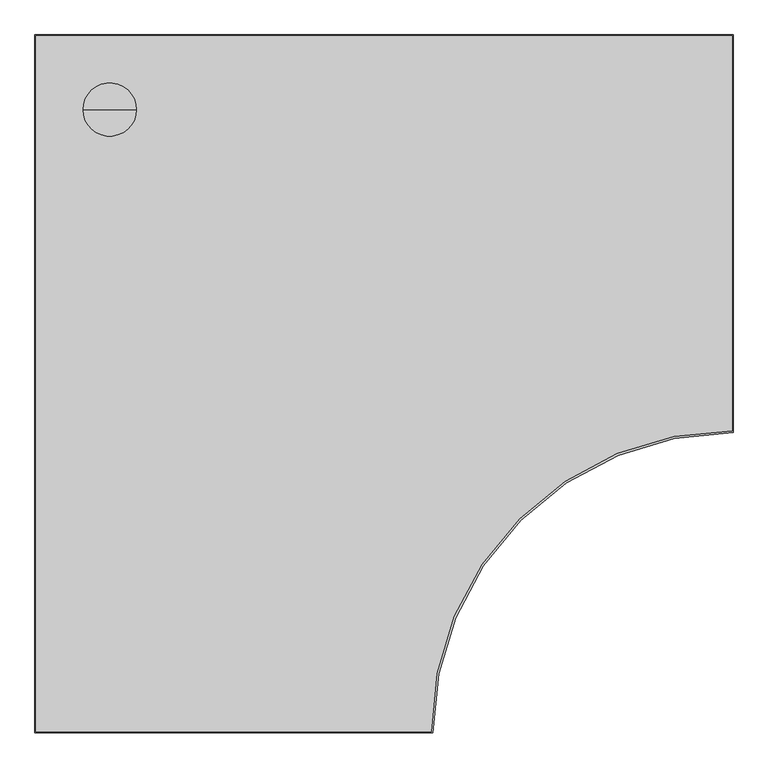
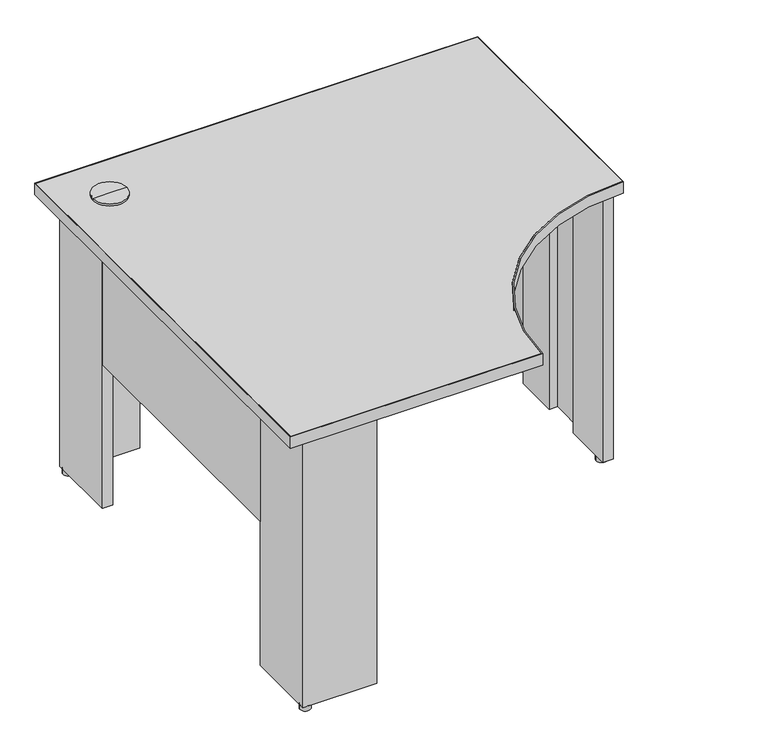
"""IFC4 building model written with IfcOpenShell, lengths in millimetres: furniture geometry, Steelcase - Kick Freestanding - Desk - Curve Corner - Partial Height Modesty Panel : 24D x 42W - Right Full End Panel/Left Clear Access Support - LPL."""

from ifc_helpers import new_model, si_unit, point, frame, frame_2d, origin, origin_with_axes, place, context, project, spatial, polyline, circle_curve, trimmed, segment, composite_curve, outline, extrude, source, transform, mapped, element, save
from ifc_brep_helpers import plane_surface, cylinder_surface, advanced_brep


def furniture_2d711125(model_context):
    return source(origin(), model_context, "Body", "SolidModel", [
        extrude(outline(composite_curve([segment(trimmed(circle_curve(frame_2d((1038.8853521, -565.8064761)), 12.7), [point((1026.1853521, -565.8064761))], [point((1051.5853521, -565.8064761))], False, "CARTESIAN"), True, "CONTINUOUS"), segment(trimmed(circle_curve(frame_2d((1038.8853521, -565.8064761)), 12.7), [point((1051.5853521, -565.8064761))], [point((1026.1853521, -565.8064761))], False, "CARTESIAN"), True, "CONTINUOUS")], self_intersect=False)), origin_with_axes(), (0.0, 0.0, 1.0), 12.446),
        extrude(outline(polyline([(215.8999939, -63.5), (63.5, -63.5), (63.5, -215.8999939), (38.1, -215.8999939), (38.1, -38.1), (215.8999939, -38.1), (215.8999939, -63.5)])), frame((0.0, 0.0, 12.446), z_axis=(0.0, 0.0, 1.0), x_axis=(1.0, 0.0, 0.0)), (0.0, 0.0, 1.0), 682.498),
        extrude(outline(polyline([(874.0393822, -63.5), (874.0393822, -38.1), (1051.8393579, -38.1), (1051.8393579, -592.582), (1025.9313463, -592.582), (1025.9313463, -469.5444), (1046.098945, -469.5444), (1046.098945, -369.824), (1025.9313463, -369.824), (1025.9313463, -261.0866), (1046.098945, -261.0866), (1046.098945, -161.3662), (1025.9313463, -161.3662), (1025.9313463, -63.5), (874.0393822, -63.5)])), frame((0.0, 0.0, 12.446), z_axis=(0.0, 0.0, 1.0), x_axis=(1.0, 0.0, 0.0)), (0.0, 0.0, 1.0), 682.498),
        advanced_brep(
        [(114.3, -114.3, 728.98), (154.94, -114.3, 728.98), (73.66, -114.3, 728.98), (76.1699693, -114.3, 694.944), (152.4300307, -114.3, 694.944), (114.3, -114.3, 694.944), (76.1699693, -114.3, 723.9), (152.4300307, -114.3, 723.9), (73.66, -114.3, 723.9), (154.94, -114.3, 723.9)],
        [
            (0, 1),
            (1, 2, circle_curve(frame((114.3, -114.3, 728.98), z_axis=(0.0, 0.0, 1.0), x_axis=(1.0, 0.0, 0.0)), 40.64)),
            (2, 0),
            (2, 1, circle_curve(frame((114.3, -114.3, 728.98), z_axis=(0.0, 0.0, 1.0), x_axis=(1.0, 0.0, 0.0)), 40.64)),
            (3, 4, circle_curve(frame((114.3, -114.3, 694.944), z_axis=(0.0, 0.0, -1.0), x_axis=(1.0, 0.0, 0.0)), 38.1300307)),
            (4, 5),
            (5, 3),
            (4, 3, circle_curve(frame((114.3, -114.3, 694.944), z_axis=(0.0, 0.0, -1.0), x_axis=(1.0, 0.0, 0.0)), 38.1300307)),
            (6, 7, circle_curve(frame((114.3, -114.3, 723.9), z_axis=(0.0, 0.0, -1.0), x_axis=(1.0, 0.0, 0.0)), 38.1300307)),
            (7, 4),
            (3, 6),
            (7, 6, circle_curve(frame((114.3, -114.3, 723.9), z_axis=(0.0, 0.0, -1.0), x_axis=(1.0, 0.0, 0.0)), 38.1300307)),
            (8, 9, circle_curve(frame((114.3, -114.3, 723.9), z_axis=(0.0, 0.0, -1.0), x_axis=(1.0, 0.0, 0.0)), 40.64)),
            (9, 7),
            (6, 8),
            (9, 8, circle_curve(frame((114.3, -114.3, 723.9), z_axis=(0.0, 0.0, -1.0), x_axis=(1.0, 0.0, 0.0)), 40.64)),
            (1, 9),
            (8, 2),
        ],
        [
            plane_surface(frame((114.3, -114.3, 728.98), z_axis=(0.0, 0.0, 1.0), x_axis=(1.0, 0.0, 0.0))),
            plane_surface(frame((114.3, -114.3, 694.944), z_axis=(0.0, 0.0, -1.0), x_axis=(1.0, 0.0, 0.0))),
            cylinder_surface(frame((114.3, -114.3, 728.98), z_axis=(0.0, 0.0, 1.0), x_axis=(1.0, 0.0, 0.0)), 38.1300307),
            plane_surface(frame((114.3, -114.3, 723.9), z_axis=(0.0, 0.0, -1.0), x_axis=(1.0, 0.0, 0.0))),
            cylinder_surface(frame((114.3, -114.3, 728.98), z_axis=(0.0, 0.0, 1.0), x_axis=(1.0, 0.0, 0.0)), 40.64),
        ],
        [
            (0, [[1, 2, 3]]),
            (0, [[-3, 4, -1]]),
            (1, [[5, 6, 7]]),
            (1, [[8, -7, -6]]),
            (2, [[9, 10, -5, 11]]),
            (2, [[12, -11, -8, -10]]),
            (3, [[13, 14, -9, 15]]),
            (3, [[16, -15, -12, -14]]),
            (4, [[-2, 17, -13, 18]]),
            (4, [[-4, -18, -16, -17]]),
        ],
    ),
        extrude(outline(composite_curve([segment(trimmed(circle_curve(frame_2d((50.8, -50.8)), 12.7), [point((38.1, -50.8))], [point((63.5, -50.8))], False, "CARTESIAN"), True, "CONTINUOUS"), segment(trimmed(circle_curve(frame_2d((50.8, -50.8)), 12.7), [point((63.5, -50.8))], [point((38.1, -50.8))], False, "CARTESIAN"), True, "CONTINUOUS")], self_intersect=False)), origin_with_axes(), (0.0, 0.0, 1.0), 12.446),
        extrude(outline(composite_curve([segment(trimmed(circle_curve(frame_2d((50.8, -1040.1300073)), 12.7484998), [point((38.0515002, -1040.1300073))], [point((63.5484998, -1040.1300073))], False, "CARTESIAN"), True, "CONTINUOUS"), segment(trimmed(circle_curve(frame_2d((50.8, -1040.1300073)), 12.7484998), [point((63.5484998, -1040.1300073))], [point((38.0515002, -1040.1300073))], False, "CARTESIAN"), True, "CONTINUOUS")], self_intersect=False)), origin_with_axes(), (0.0, 0.0, 1.0), 12.446),
        extrude(outline(composite_curve([segment(trimmed(circle_curve(frame_2d((1038.8853521, -50.8)), 12.7), [point((1026.1853521, -50.8))], [point((1051.5853521, -50.8))], False, "CARTESIAN"), True, "CONTINUOUS"), segment(trimmed(circle_curve(frame_2d((1038.8853521, -50.8)), 12.7), [point((1051.5853521, -50.8))], [point((1026.1853521, -50.8))], False, "CARTESIAN"), True, "CONTINUOUS")], self_intersect=False)), origin_with_axes(), (0.0, 0.0, 1.0), 12.446),
        extrude(outline(polyline([(63.5, -215.8999939), (63.5, -875.0300194), (38.1, -875.0300194), (38.1, -215.8999939), (63.5, -215.8999939)])), frame((0.0, 0.0, 379.476), z_axis=(0.0, 0.0, 1.0), x_axis=(1.0, 0.0, 0.0)), (0.0, 0.0, 1.0), 315.468),
        extrude(outline(polyline([(874.0393822, -38.1), (874.0393822, -63.5), (215.8999939, -63.5), (215.8999939, -38.1), (874.0393822, -38.1)])), frame((0.0, 0.0, 379.476), z_axis=(0.0, 0.0, 1.0), x_axis=(1.0, 0.0, 0.0)), (0.0, 0.0, 1.0), 315.468),
        extrude(outline(polyline([(215.8999939, -1027.4300194), (215.8999939, -1052.8299952), (38.1, -1052.8299952), (38.1, -875.0300194), (63.5, -875.0300194), (63.5, -1027.4300194), (215.8999939, -1027.4300194)])), frame((0.0, 0.0, 12.446), z_axis=(0.0, 0.0, 1.0), x_axis=(1.0, 0.0, 0.0)), (0.0, 0.0, 1.0), 682.498),
        extrude(outline(composite_curve([segment(polyline([(0.9906, -1065.8093628), (0.9906, -0.9906), (1065.8093628, -0.9906), (1065.8093628, -605.3354109)]), True, "CONTINUOUS"), segment(trimmed(circle_curve(frame_2d((1064.5393458, -1064.5393458)), 459.2056912), [point((1065.8093628, -605.3354109))], [point((605.3354109, -1065.8093628))], True, "CARTESIAN"), True, "CONTINUOUS"), segment(polyline([(605.3354109, -1065.8093628), (0.9906, -1065.8093628)]), True, "CONTINUOUS")], self_intersect=False)), frame((0.0, 0.0, 694.944), z_axis=(0.0, 0.0, 1.0), x_axis=(1.0, 0.0, 0.0)), (0.0, 0.0, 1.0), 28.956),
        extrude(outline(composite_curve([segment(polyline([(1066.8, 0.0), (1066.8, -608.332629)]), True, "CONTINUOUS"), segment(trimmed(circle_curve(frame_2d((1065.529983, -1065.529983)), 457.199118), [point((1066.8, -608.332629))], [point((608.332629, -1066.8))], True, "CARTESIAN"), True, "CONTINUOUS"), segment(polyline([(608.332629, -1066.8), (0.0, -1066.8), (0.0, 0.0), (1066.8, 0.0)]), True, "CONTINUOUS")], self_intersect=False), holes=[composite_curve([segment(polyline([(1065.8093628, -0.9906), (0.9906, -0.9906), (0.9906, -1065.8093628), (605.3354109, -1065.8093628)]), True, "CONTINUOUS"), segment(trimmed(circle_curve(frame_2d((1064.5393458, -1064.5393458)), 459.2056912), [point((605.3354109, -1065.8093628))], [point((1065.8093628, -605.3354109))], False, "CARTESIAN"), True, "CONTINUOUS"), segment(polyline([(1065.8093628, -605.3354109), (1065.8093628, -0.9906)]), True, "CONTINUOUS")], self_intersect=False)]), frame((0.0, 0.0, 694.944), z_axis=(0.0, 0.0, 1.0), x_axis=(1.0, 0.0, 0.0)), (0.0, 0.0, 1.0), 28.956),
    ])


if __name__ == "__main__":
    model = new_model("IFC4")
    model_context = context("Model", 3, world=origin())
    ifc_project = project(units=[si_unit("LENGTHUNIT", "METRE", prefix="MILLI")], contexts=[model_context])
    site = spatial("IfcSite", under=ifc_project)
    building = spatial("IfcBuilding", under=site)
    placement = place(None, origin())
    furniture_shape = furniture_2d711125(model_context)
    element("IfcFurniture", 1, ObjectType="Steelcase - Kick Freestanding - Desk - Curve Corner - Partial Height Modesty Panel : 24D x 42W - Right Full End Panel/Left Clear Access Support - LPL", at=placement, inside=building, context=model_context, shape_type="MappedRepresentation", body=[
        mapped(furniture_shape, transform((0.0, 0.0, 0.0), x_axis=(1.0, 0.0, 0.0), y_axis=(0.0, 1.0, 0.0), z_axis=(0.0, 0.0, 1.0))),
    ])
    save(model, "model.ifc")
